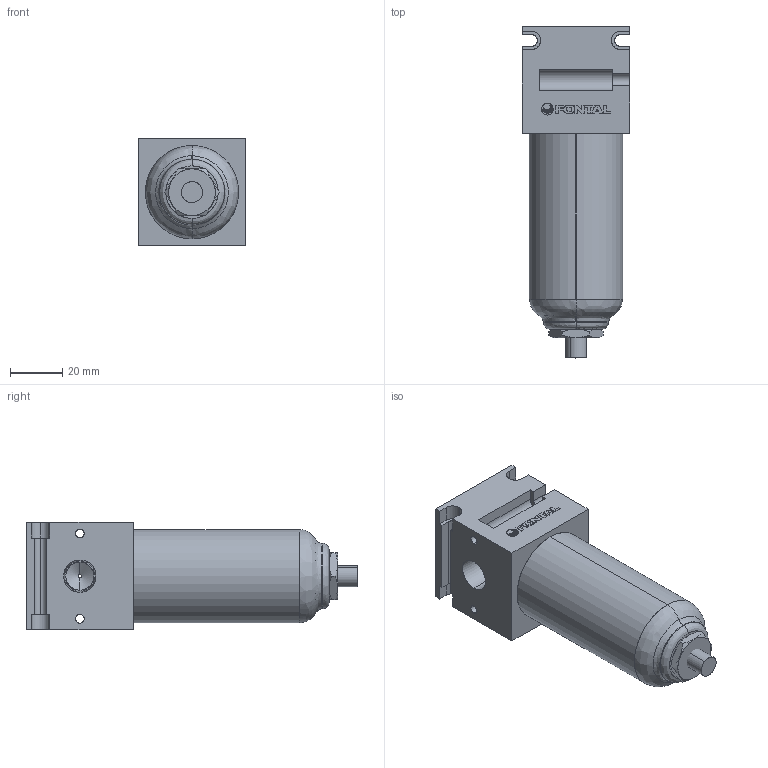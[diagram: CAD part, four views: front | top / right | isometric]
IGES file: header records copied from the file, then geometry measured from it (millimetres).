
Start section: SolidWorks IGES file using analytic representation for surfaces
Global section: file name: D:\Custom\3D繪製\調質機器\空氣過濾器\F45-02#Y#.IGS; native system: SolidWorks 2014; preprocessor: SolidWorks 2014; author: Chieh_Lu; date: 160115.025848; units: millimetre
Bounding box: 41 x 126.5 x 41.12 mm (x, y, z)
Surface area: 24596.8 mm2 (no closed solid volume)
Topology: 0 solids, 0 shells, 196 faces, 2250 edges, 2250 vertices
Faces by surface type: bspline 131, revolution 65
